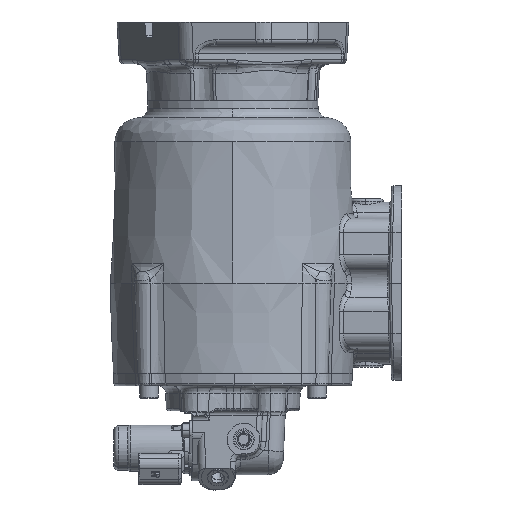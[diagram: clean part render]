
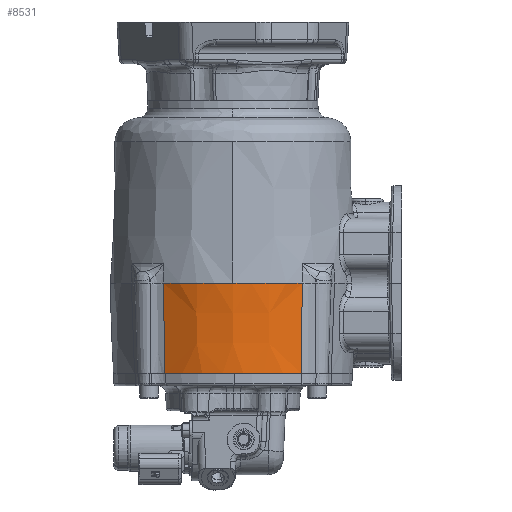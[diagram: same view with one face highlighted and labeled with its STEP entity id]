
A CAD part, left-side view. The second image highlights one B-rep face of the part: STEP entity #8531.
In plain terms, the highlighted conical face has half-angle 2 degrees and reference radius 78.232 mm.
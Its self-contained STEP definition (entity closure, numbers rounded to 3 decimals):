
#827 = CARTESIAN_POINT ( 'NONE',  ( -96.365, 128.676, 0. ) ) ;
#944 = EDGE_CURVE ( 'NONE', #19438, #90095, #22432, .T. ) ;
#8531 = ADVANCED_FACE ( 'NONE', ( #41993 ), #131852, .F. ) ;
#10343 = DIRECTION ( 'NONE',  ( 0., -1., 0. ) ) ;
#11137 = DIRECTION ( 'NONE',  ( 0., 0., 1. ) ) ;
#19438 = VERTEX_POINT ( 'NONE', #181291 ) ;
#22432 = B_SPLINE_CURVE_WITH_KNOTS ( 'NONE', 3,
 ( #125150, #161150, #122871, #827 ),
 .UNSPECIFIED., .F., .F.,
 ( 4, 4 ),
 ( 0., 1. ),
 .UNSPECIFIED. ) ;
#24144 = VERTEX_POINT ( 'NONE', #223421 ) ;
#37985 = CARTESIAN_POINT ( 'NONE',  ( -96.365, 40.468, 0. ) ) ;
#41993 = FACE_OUTER_BOUND ( 'NONE', #172475, .T. ) ;
#45259 = AXIS2_PLACEMENT_3D ( 'NONE', #67498, #138371, #64058 ) ;
#64058 = DIRECTION ( 'NONE',  ( 1., 0., 0. ) ) ;
#67498 = CARTESIAN_POINT ( 'NONE',  ( -31.75, 84.572, -57.518 ) ) ;
#70367 = CIRCLE ( 'NONE', #207739, 78.232 ) ;
#74352 = EDGE_CURVE ( 'NONE', #74542, #19438, #167834, .T. ) ;
#74542 = VERTEX_POINT ( 'NONE', #169481 ) ;
#78043 = DIRECTION ( 'NONE',  ( 0., 0., 1. ) ) ;
#78584 = CARTESIAN_POINT ( 'NONE',  ( -31.75, 84.572, 0. ) ) ;
#81204 = CARTESIAN_POINT ( 'NONE',  ( -31.75, 84.572, 0. ) ) ;
#90095 = VERTEX_POINT ( 'NONE', #191567 ) ;
#91754 = VERTEX_POINT ( 'NONE', #37985 ) ;
#93701 = EDGE_CURVE ( 'NONE', #24144, #91754, #70367, .T. ) ;
#101546 = ORIENTED_EDGE ( 'NONE', *, *, #74352, .T. ) ;
#104819 = CARTESIAN_POINT ( 'NONE',  ( -94.345, 41.076, -57.518 ) ) ;
#111830 = ORIENTED_EDGE ( 'NONE', *, *, #137391, .F. ) ;
#122871 = CARTESIAN_POINT ( 'NONE',  ( -95.676, 128.464, -19.716 ) ) ;
#124934 = ORIENTED_EDGE ( 'NONE', *, *, #944, .T. ) ;
#125150 = CARTESIAN_POINT ( 'NONE',  ( -94.345, 128.067, -57.518 ) ) ;
#131852 = CONICAL_SURFACE ( 'NONE', #139285, 78.232, 0.035 ) ;
#132653 = AXIS2_PLACEMENT_3D ( 'NONE', #78584, #11137, #202894 ) ;
#137391 = EDGE_CURVE ( 'NONE', #74542, #91754, #142284, .T. ) ;
#138371 = DIRECTION ( 'NONE',  ( 0., 0., -1. ) ) ;
#139285 = AXIS2_PLACEMENT_3D ( 'NONE', #203501, #78043, #198909 ) ;
#142284 = B_SPLINE_CURVE_WITH_KNOTS ( 'NONE', 3,
 ( #104819, #225721, #158250, #155979 ),
 .UNSPECIFIED., .F., .F.,
 ( 4, 4 ),
 ( 0., 1. ),
 .UNSPECIFIED. ) ;
#155979 = CARTESIAN_POINT ( 'NONE',  ( -96.365, 40.468, 0. ) ) ;
#158250 = CARTESIAN_POINT ( 'NONE',  ( -95.676, 40.679, -19.716 ) ) ;
#161150 = CARTESIAN_POINT ( 'NONE',  ( -95.002, 128.262, -38.888 ) ) ;
#167834 = CIRCLE ( 'NONE', #45259, 76.223 ) ;
#168743 = ORIENTED_EDGE ( 'NONE', *, *, #93701, .T. ) ;
#169481 = CARTESIAN_POINT ( 'NONE',  ( -94.345, 41.076, -57.518 ) ) ;
#172475 = EDGE_LOOP ( 'NONE', ( #180683, #168743, #111830, #101546, #124934 ) ) ;
#172908 = DIRECTION ( 'NONE',  ( 0., 0., 1. ) ) ;
#180683 = ORIENTED_EDGE ( 'NONE', *, *, #197946, .T. ) ;
#181291 = CARTESIAN_POINT ( 'NONE',  ( -94.345, 128.067, -57.518 ) ) ;
#191567 = CARTESIAN_POINT ( 'NONE',  ( -96.365, 128.676, 0. ) ) ;
#197946 = EDGE_CURVE ( 'NONE', #90095, #24144, #210570, .T. ) ;
#198909 = DIRECTION ( 'NONE',  ( 1., 0., 0. ) ) ;
#202894 = DIRECTION ( 'NONE',  ( 0., -1., 0. ) ) ;
#203501 = CARTESIAN_POINT ( 'NONE',  ( -31.75, 84.572, 0. ) ) ;
#207739 = AXIS2_PLACEMENT_3D ( 'NONE', #81204, #172908, #10343 ) ;
#210570 = CIRCLE ( 'NONE', #132653, 78.232 ) ;
#223421 = CARTESIAN_POINT ( 'NONE',  ( -109.982, 84.572, 0. ) ) ;
#225721 = CARTESIAN_POINT ( 'NONE',  ( -95.002, 40.882, -38.888 ) ) ;
